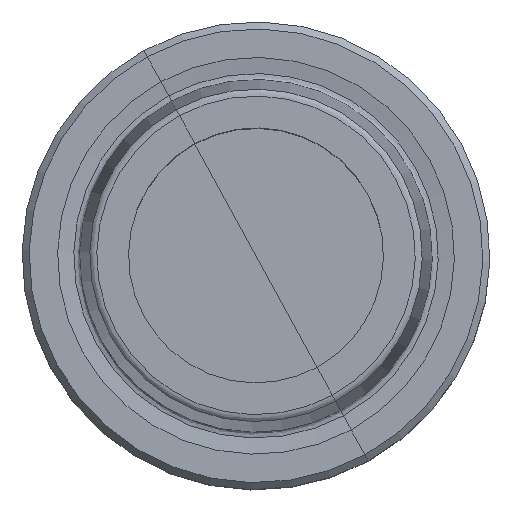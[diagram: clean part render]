
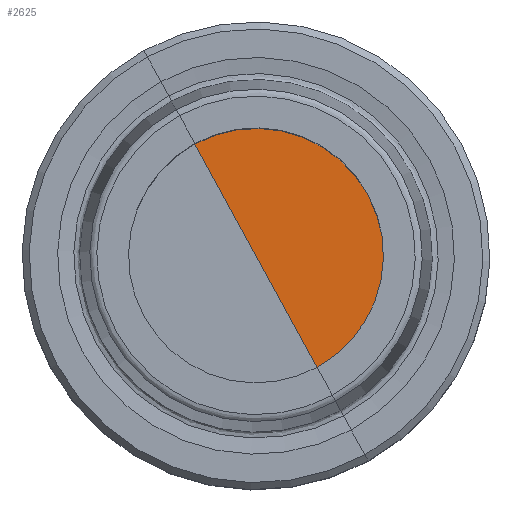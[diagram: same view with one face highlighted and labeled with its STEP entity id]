
A CAD part, top view. The second image highlights one B-rep face of the part: STEP entity #2625.
In plain terms, the highlighted planar face has unit normal (0, 0, 1).
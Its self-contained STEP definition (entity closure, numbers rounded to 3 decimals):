
#2502=AXIS2_PLACEMENT_3D('Circle Axis2P3D',#2500,#2501,$) ;
#2614=AXIS2_PLACEMENT_3D('Plane Axis2P3D',#2611,#2612,#2613) ;
#2497=CARTESIAN_POINT('Vertex',(-5.226,9.566,-8.)) ;
#2500=CARTESIAN_POINT('Axis2P3D Location',(0.,0.,-8.)) ;
#2504=CARTESIAN_POINT('Vertex',(5.226,-9.566,-8.)) ;
#2611=CARTESIAN_POINT('Axis2P3D Location',(0.,-9.9,-8.)) ;
#2616=CARTESIAN_POINT('Line Origine',(0.,0.,-8.)) ;
#2501=DIRECTION('Axis2P3D Direction',(0.,0.,1.)) ;
#2612=DIRECTION('Axis2P3D Direction',(0.,0.,-1.)) ;
#2613=DIRECTION('Axis2P3D XDirection',(-1.,0.,0.)) ;
#2617=DIRECTION('Vector Direction',(-0.479,0.878,0.)) ;
#2618=VECTOR('Line Direction',#2617,1.) ;
#2622=ORIENTED_EDGE('',*,*,#2620,.T.) ;
#2623=ORIENTED_EDGE('',*,*,#2506,.T.) ;
#2625=ADVANCED_FACE('NOCUT',(#2624),#2615,.F.) ;
#2503=CIRCLE('generated circle',#2502,10.9) ;
#2506=EDGE_CURVE('',#2505,#2498,#2503,.T.) ;
#2620=EDGE_CURVE('',#2498,#2505,#2619,.F.) ;
#2621=EDGE_LOOP('',(#2622,#2623)) ;
#2624=FACE_OUTER_BOUND('',#2621,.T.) ;
#2619=LINE('Line',#2616,#2618) ;
#2615=PLANE('',#2614) ;
#2498=VERTEX_POINT('',#2497) ;
#2505=VERTEX_POINT('',#2504) ;
